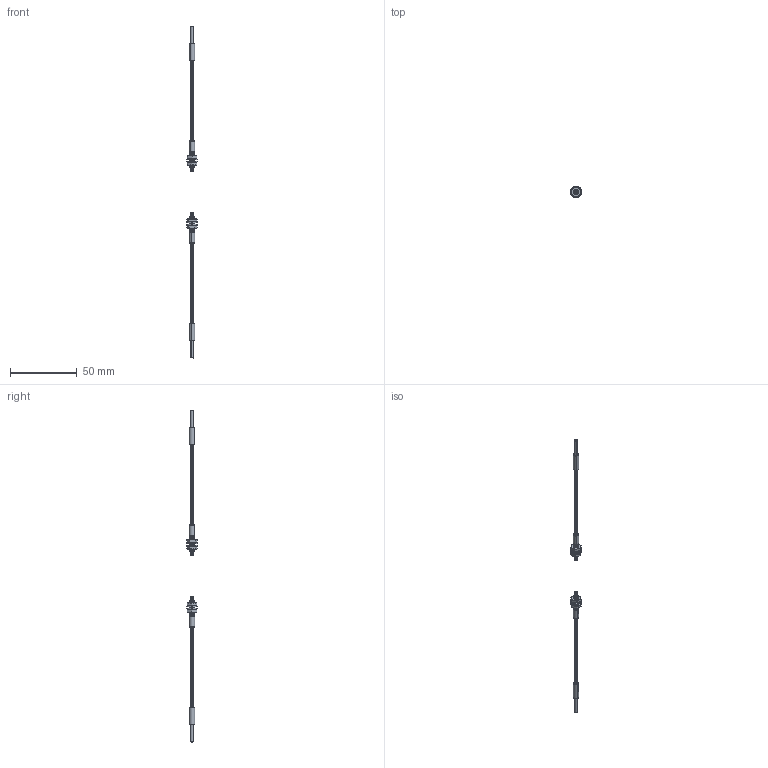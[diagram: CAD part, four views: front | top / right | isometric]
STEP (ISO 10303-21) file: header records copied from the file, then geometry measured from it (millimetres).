
FILE_DESCRIPTION (( 'STEP AP214' ), '1' );
FILE_NAME ('GT-420-13H2.STEP', '2019-06-18T02:41:48', ( '' ), ( '' ), 'SwSTEP 2.0', 'SolidWorks 2018', '' );
FILE_SCHEMA (( 'AUTOMOTIVE_DESIGN' ));
Length unit declared in the file: millimetre
Products named in the file (1): GT-420-13H2
Bounding box: 8.5 x 8.5 x 248.4 mm (x, y, z)
Volume: 1817.8 mm3; surface area: 3497.8 mm2
Topology: 10 solids, 10 shells, 564 faces, 1544 edges, 1008 vertices
Faces by surface type: cylinder 314, plane 128, cone 86, bspline 36
Entity records: 41793 total; most frequent: CARTESIAN_POINT 28901, ORIENTED_EDGE 3088, DIRECTION 2256, EDGE_CURVE 1544, VERTEX_POINT 1008, AXIS2_PLACEMENT_3D 837, EDGE_LOOP 596, LINE 582
